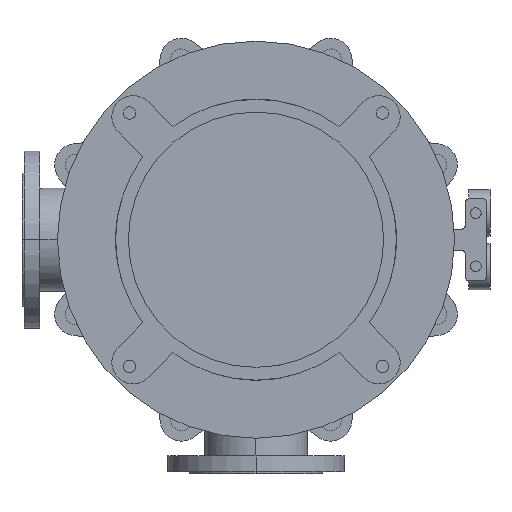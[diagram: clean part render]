
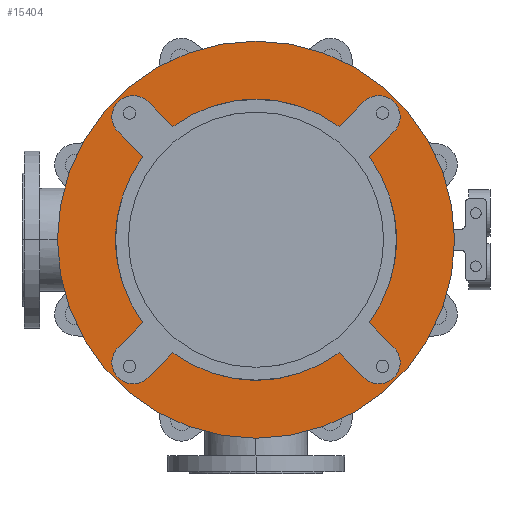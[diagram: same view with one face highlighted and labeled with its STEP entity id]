
A CAD part, front view. The second image highlights one B-rep face of the part: STEP entity #15404.
In plain terms, the highlighted planar face has unit normal (0, -1, 0).
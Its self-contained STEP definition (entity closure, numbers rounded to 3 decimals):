
#4305=CARTESIAN_POINT('',(0.,-25.,0.));
#4306=DIRECTION('',(0.,1.,0.));
#4307=DIRECTION('',(0.592,0.,-0.806));
#4308=AXIS2_PLACEMENT_3D('',#4305,#4306,#4307);
#4323=CARTESIAN_POINT('',(0.,-25.,0.));
#4324=DIRECTION('',(0.,1.,0.));
#4325=DIRECTION('',(0.806,0.,0.592));
#4326=AXIS2_PLACEMENT_3D('',#4323,#4324,#4325);
#4350=CARTESIAN_POINT('',(0.,-25.,0.));
#4351=DIRECTION('',(0.,1.,0.));
#4352=DIRECTION('',(-0.806,0.,-0.592));
#4353=AXIS2_PLACEMENT_3D('',#4350,#4351,#4352);
#4359=CARTESIAN_POINT('',(0.,-25.,0.));
#4360=DIRECTION('',(0.,1.,0.));
#4361=DIRECTION('',(-0.592,0.,0.806));
#4362=AXIS2_PLACEMENT_3D('',#4359,#4360,#4361);
#4537=CARTESIAN_POINT('',(0.,-25.,0.));
#4538=DIRECTION('',(0.,-1.,0.));
#4539=DIRECTION('',(-1.,0.,0.));
#4540=AXIS2_PLACEMENT_3D('',#4537,#4538,#4539);
#4542=CARTESIAN_POINT('',(0.,-25.,0.));
#4543=DIRECTION('',(0.,1.,0.));
#4544=DIRECTION('',(-1.,0.,0.));
#4545=AXIS2_PLACEMENT_3D('',#4542,#4543,#4544);
#4547=CARTESIAN_POINT('',(-173.241,-25.,173.241));
#4548=DIRECTION('',(0.,-1.,0.));
#4549=DIRECTION('',(0.707,0.,0.707));
#4550=AXIS2_PLACEMENT_3D('',#4547,#4548,#4549);
#4552=DIRECTION('',(0.707,0.,-0.707));
#4553=VECTOR('',#4552,49.286);
#4554=CARTESIAN_POINT('',(-194.454,-25.,152.028));
#4555=LINE('',#4554,#4553);
#4556=DIRECTION('',(-0.707,0.,-0.707));
#4557=VECTOR('',#4556,49.286);
#4558=CARTESIAN_POINT('',(-159.604,-25.,-117.178));
#4559=LINE('',#4558,#4557);
#4560=CARTESIAN_POINT('',(-173.241,-25.,-173.241));
#4561=DIRECTION('',(0.,-1.,0.));
#4562=DIRECTION('',(-0.707,0.,0.707));
#4563=AXIS2_PLACEMENT_3D('',#4560,#4561,#4562);
#4565=DIRECTION('',(0.707,0.,0.707));
#4566=VECTOR('',#4565,49.286);
#4567=CARTESIAN_POINT('',(-152.028,-25.,-194.454));
#4568=LINE('',#4567,#4566);
#4569=DIRECTION('',(0.707,0.,-0.707));
#4570=VECTOR('',#4569,49.286);
#4571=CARTESIAN_POINT('',(117.178,-25.,-159.604));
#4572=LINE('',#4571,#4570);
#4573=CARTESIAN_POINT('',(173.241,-25.,-173.241));
#4574=DIRECTION('',(0.,-1.,0.));
#4575=DIRECTION('',(-0.707,0.,-0.707));
#4576=AXIS2_PLACEMENT_3D('',#4573,#4574,#4575);
#4578=DIRECTION('',(-0.707,0.,0.707));
#4579=VECTOR('',#4578,49.286);
#4580=CARTESIAN_POINT('',(194.454,-25.,-152.028));
#4581=LINE('',#4580,#4579);
#4582=DIRECTION('',(0.707,0.,0.707));
#4583=VECTOR('',#4582,49.286);
#4584=CARTESIAN_POINT('',(159.604,-25.,117.178));
#4585=LINE('',#4584,#4583);
#4586=CARTESIAN_POINT('',(173.241,-25.,173.241));
#4587=DIRECTION('',(0.,-1.,0.));
#4588=DIRECTION('',(0.707,0.,-0.707));
#4589=AXIS2_PLACEMENT_3D('',#4586,#4587,#4588);
#4591=DIRECTION('',(-0.707,0.,-0.707));
#4592=VECTOR('',#4591,49.286);
#4593=CARTESIAN_POINT('',(152.028,-25.,194.454));
#4594=LINE('',#4593,#4592);
#4595=DIRECTION('',(-0.707,0.,0.707));
#4596=VECTOR('',#4595,49.286);
#4597=CARTESIAN_POINT('',(-117.178,-25.,159.604));
#4598=LINE('',#4597,#4596);
#8402=CARTESIAN_POINT('',(-280.,-25.,0.));
#8403=CARTESIAN_POINT('',(280.,-25.,0.));
#8404=VERTEX_POINT('',#8402);
#8405=VERTEX_POINT('',#8403);
#8426=CARTESIAN_POINT('',(-194.454,-25.,-152.028));
#8427=CARTESIAN_POINT('',(-152.028,-25.,-194.454));
#8428=VERTEX_POINT('',#8426);
#8429=VERTEX_POINT('',#8427);
#8430=CARTESIAN_POINT('',(-117.178,-25.,-159.604));
#8431=VERTEX_POINT('',#8430);
#8432=CARTESIAN_POINT('',(-159.604,-25.,-117.178));
#8433=VERTEX_POINT('',#8432);
#8442=CARTESIAN_POINT('',(152.028,-25.,-194.454));
#8443=CARTESIAN_POINT('',(194.454,-25.,-152.028));
#8444=VERTEX_POINT('',#8442);
#8445=VERTEX_POINT('',#8443);
#8446=CARTESIAN_POINT('',(159.604,-25.,-117.178));
#8447=VERTEX_POINT('',#8446);
#8448=CARTESIAN_POINT('',(117.178,-25.,-159.604));
#8449=VERTEX_POINT('',#8448);
#8458=CARTESIAN_POINT('',(194.454,-25.,152.028));
#8459=CARTESIAN_POINT('',(152.028,-25.,194.454));
#8460=VERTEX_POINT('',#8458);
#8461=VERTEX_POINT('',#8459);
#8462=CARTESIAN_POINT('',(117.178,-25.,159.604));
#8463=VERTEX_POINT('',#8462);
#8464=CARTESIAN_POINT('',(159.604,-25.,117.178));
#8465=VERTEX_POINT('',#8464);
#8474=CARTESIAN_POINT('',(-152.028,-25.,194.454));
#8475=CARTESIAN_POINT('',(-194.454,-25.,152.028));
#8476=VERTEX_POINT('',#8474);
#8477=VERTEX_POINT('',#8475);
#8478=CARTESIAN_POINT('',(-159.604,-25.,117.178));
#8479=VERTEX_POINT('',#8478);
#8480=CARTESIAN_POINT('',(-117.178,-25.,159.604));
#8481=VERTEX_POINT('',#8480);
#15364=CARTESIAN_POINT('',(0.,-25.,0.));
#15365=DIRECTION('',(0.,-1.,0.));
#15366=DIRECTION('',(-1.,0.,0.));
#15367=AXIS2_PLACEMENT_3D('',#15364,#15365,#15366);
#15368=PLANE('',#15367);
#15370=ORIENTED_EDGE('',*,*,#15369,.F.);
#15372=ORIENTED_EDGE('',*,*,#15371,.T.);
#15373=EDGE_LOOP('',(#15370,#15372));
#15374=FACE_OUTER_BOUND('',#15373,.F.);
#15376=ORIENTED_EDGE('',*,*,#15375,.T.);
#15378=ORIENTED_EDGE('',*,*,#15377,.T.);
#15379=ORIENTED_EDGE('',*,*,#15317,.F.);
#15381=ORIENTED_EDGE('',*,*,#15380,.T.);
#15383=ORIENTED_EDGE('',*,*,#15382,.T.);
#15385=ORIENTED_EDGE('',*,*,#15384,.T.);
#15386=ORIENTED_EDGE('',*,*,#15270,.F.);
#15387=ORIENTED_EDGE('',*,*,#15354,.T.);
#15389=ORIENTED_EDGE('',*,*,#15388,.T.);
#15391=ORIENTED_EDGE('',*,*,#15390,.T.);
#15392=ORIENTED_EDGE('',*,*,#15291,.F.);
#15394=ORIENTED_EDGE('',*,*,#15393,.T.);
#15396=ORIENTED_EDGE('',*,*,#15395,.T.);
#15398=ORIENTED_EDGE('',*,*,#15397,.T.);
#15399=ORIENTED_EDGE('',*,*,#15335,.F.);
#15401=ORIENTED_EDGE('',*,*,#15400,.T.);
#15402=EDGE_LOOP('',(#15376,#15378,#15379,#15381,#15383,#15385,#15386,#15387,
#15389,#15391,#15392,#15394,#15396,#15398,#15399,#15401));
#15403=FACE_BOUND('',#15402,.F.);
#15404=ADVANCED_FACE('',(#15374,#15403),#15368,.T.);
#4309=CIRCLE('',#4308,198.);
#4327=CIRCLE('',#4326,198.);
#4354=CIRCLE('',#4353,198.);
#4363=CIRCLE('',#4362,198.);
#4541=CIRCLE('',#4540,280.);
#4546=CIRCLE('',#4545,280.);
#4551=CIRCLE('',#4550,30.);
#4564=CIRCLE('',#4563,30.);
#4577=CIRCLE('',#4576,30.);
#4590=CIRCLE('',#4589,30.);
#15270=EDGE_CURVE('',#8449,#8431,#4309,.T.);
#15291=EDGE_CURVE('',#8465,#8447,#4327,.T.);
#15317=EDGE_CURVE('',#8433,#8479,#4354,.T.);
#15335=EDGE_CURVE('',#8481,#8463,#4363,.T.);
#15354=EDGE_CURVE('',#8449,#8444,#4572,.T.);
#15369=EDGE_CURVE('',#8404,#8405,#4541,.T.);
#15371=EDGE_CURVE('',#8404,#8405,#4546,.T.);
#15375=EDGE_CURVE('',#8476,#8477,#4551,.T.);
#15377=EDGE_CURVE('',#8477,#8479,#4555,.T.);
#15380=EDGE_CURVE('',#8433,#8428,#4559,.T.);
#15382=EDGE_CURVE('',#8428,#8429,#4564,.T.);
#15384=EDGE_CURVE('',#8429,#8431,#4568,.T.);
#15388=EDGE_CURVE('',#8444,#8445,#4577,.T.);
#15390=EDGE_CURVE('',#8445,#8447,#4581,.T.);
#15393=EDGE_CURVE('',#8465,#8460,#4585,.T.);
#15395=EDGE_CURVE('',#8460,#8461,#4590,.T.);
#15397=EDGE_CURVE('',#8461,#8463,#4594,.T.);
#15400=EDGE_CURVE('',#8481,#8476,#4598,.T.);
